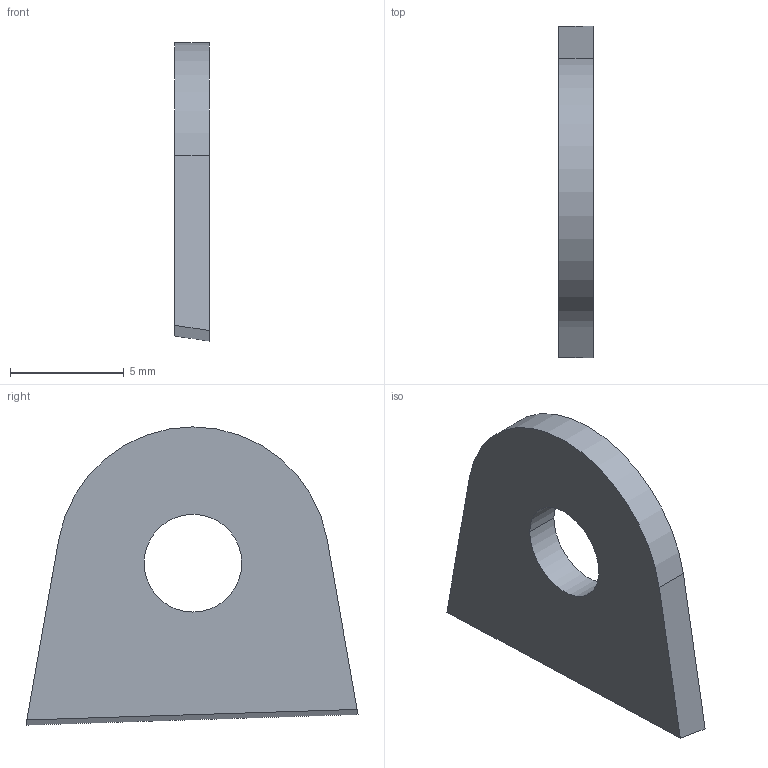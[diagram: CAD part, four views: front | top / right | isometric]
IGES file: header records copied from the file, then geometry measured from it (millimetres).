
Start section: START RECORD GO HERE.
Global section: file name: 20_M_EN_09003 (Frame Bracket Expansion Tank).igs; native system: IBM CATIA IGES - CATIA Version 5 Release 19 ; preprocessor: CATIA Version 5 Release 19 ; author: Calixthe; organization: MACHINEDECALOU; date: 20200123.095417; units: millimetre
Bounding box: 1.5 x 14.62 x 13.13 mm (x, y, z)
Surface area: 357 mm2 (no closed solid volume)
Topology: 0 solids, 0 shells, 8 faces, 36 edges, 38 vertices
Faces by surface type: revolution 4, plane 4
